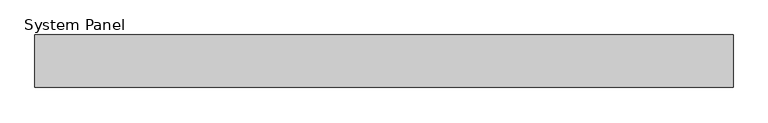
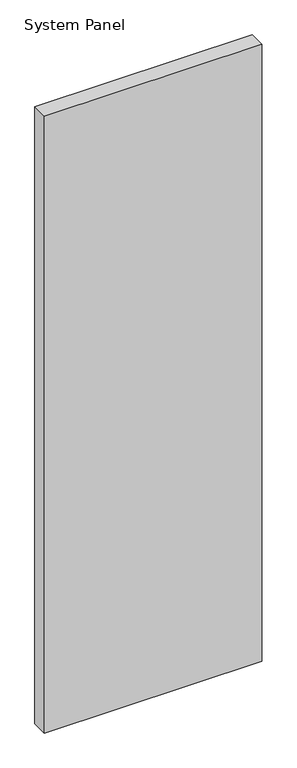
"""IFC4 building model written with IfcOpenShell, lengths in millimetres: plate geometry, System Panel : InsulWall_90mm_Plain_Surfmist."""

from ifc_helpers import new_model, si_unit, origin, origin_with_axes, place, context, project, spatial, polyline, outline, extrude, source, transform, mapped, element, save


def system_panel_04d2545f(model_context):
    return source(origin(), model_context, "Body", "SweptSolid", [
        extrude(outline(polyline([(600.0, 0.0), (-600.0, 0.0), (-600.0, 90.0), (600.0, 90.0), (600.0, 0.0)])), origin_with_axes(), (0.0, 0.0, 1.0), 3600.0),
    ])


if __name__ == "__main__":
    model = new_model("IFC4")
    model_context = context("Model", 3, world=origin())
    ifc_project = project(units=[si_unit("LENGTHUNIT", "METRE", prefix="MILLI")], contexts=[model_context])
    site = spatial("IfcSite", under=ifc_project)
    building = spatial("IfcBuilding", under=site)
    placement = place(None, origin())
    system_panel_shape = system_panel_04d2545f(model_context)
    element("IfcPlate", 1, ObjectType="System Panel : InsulWall_90mm_Plain_Surfmist", at=placement, inside=building, context=model_context, shape_type="MappedRepresentation", body=[
        mapped(system_panel_shape, transform((0.0, 0.0, 0.0), x_axis=(1.0, 0.0, 0.0), y_axis=(0.0, 1.0, 0.0), z_axis=(0.0, 0.0, 1.0))),
    ])
    save(model, "model.ifc")
